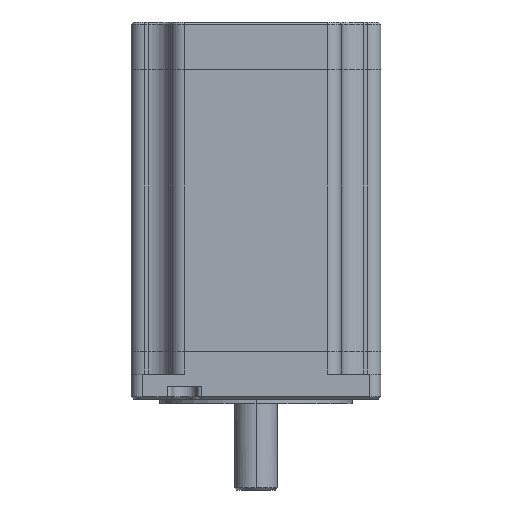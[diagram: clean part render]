
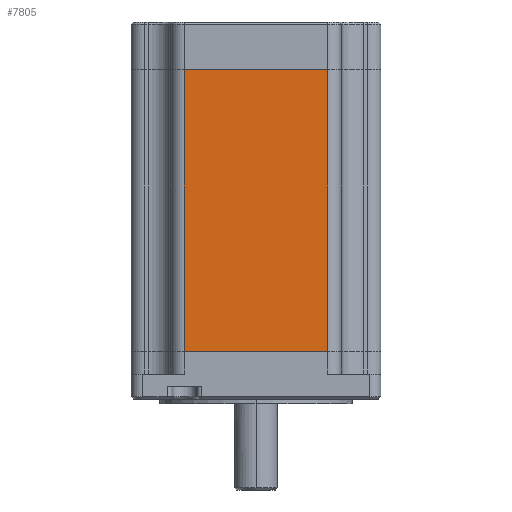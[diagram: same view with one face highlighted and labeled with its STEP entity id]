
A CAD part, left-side view. The second image highlights one B-rep face of the part: STEP entity #7805.
In plain terms, the highlighted planar face has unit normal (-1, 0, 0).
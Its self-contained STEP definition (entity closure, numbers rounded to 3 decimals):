
#847=DIRECTION('',(0.,0.,-1.));
#848=VECTOR('',#847,124.);
#849=CARTESIAN_POINT('',(135.741,84.715,145.));
#850=LINE('',#849,#848);
#860=DIRECTION('',(0.,-1.,0.));
#861=VECTOR('',#860,63.);
#862=CARTESIAN_POINT('',(135.741,147.715,21.));
#863=LINE('',#862,#861);
#864=DIRECTION('',(0.,1.,0.));
#865=VECTOR('',#864,63.);
#866=CARTESIAN_POINT('',(135.741,84.715,145.));
#867=LINE('',#866,#865);
#882=DIRECTION('',(0.,0.,1.));
#883=VECTOR('',#882,124.);
#884=CARTESIAN_POINT('',(135.741,147.715,21.));
#885=LINE('',#884,#883);
#5571=CARTESIAN_POINT('',(135.741,147.715,21.));
#5573=VERTEX_POINT('',#5571);
#5578=CARTESIAN_POINT('',(135.741,84.715,21.));
#5580=VERTEX_POINT('',#5578);
#5628=CARTESIAN_POINT('',(135.741,147.715,145.));
#5630=VERTEX_POINT('',#5628);
#5648=CARTESIAN_POINT('',(135.741,84.715,145.));
#5649=VERTEX_POINT('',#5648);
#7793=CARTESIAN_POINT('',(135.741,116.215,0.));
#7794=DIRECTION('',(1.,0.,0.));
#7795=DIRECTION('',(0.,0.,1.));
#7796=AXIS2_PLACEMENT_3D('',#7793,#7794,#7795);
#7797=PLANE('',#7796);
#7798=ORIENTED_EDGE('',*,*,#7731,.F.);
#7800=ORIENTED_EDGE('',*,*,#7799,.T.);
#7801=ORIENTED_EDGE('',*,*,#6901,.F.);
#7802=ORIENTED_EDGE('',*,*,#7786,.T.);
#7803=EDGE_LOOP('',(#7798,#7800,#7801,#7802));
#7804=FACE_OUTER_BOUND('',#7803,.F.);
#7805=ADVANCED_FACE('',(#7804),#7797,.F.);
#6901=EDGE_CURVE('',#5649,#5630,#867,.T.);
#7731=EDGE_CURVE('',#5573,#5580,#863,.T.);
#7786=EDGE_CURVE('',#5649,#5580,#850,.T.);
#7799=EDGE_CURVE('',#5573,#5630,#885,.T.);
